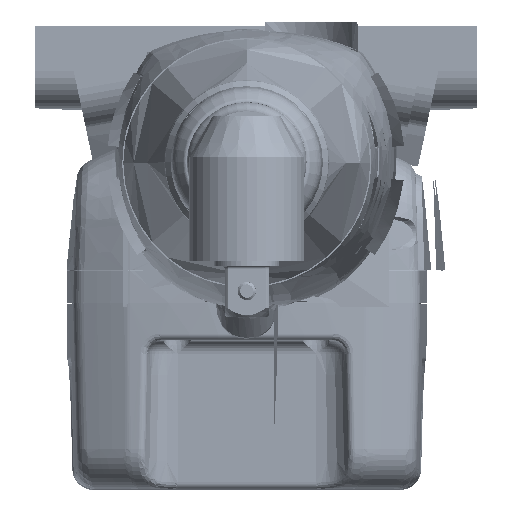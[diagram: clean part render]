
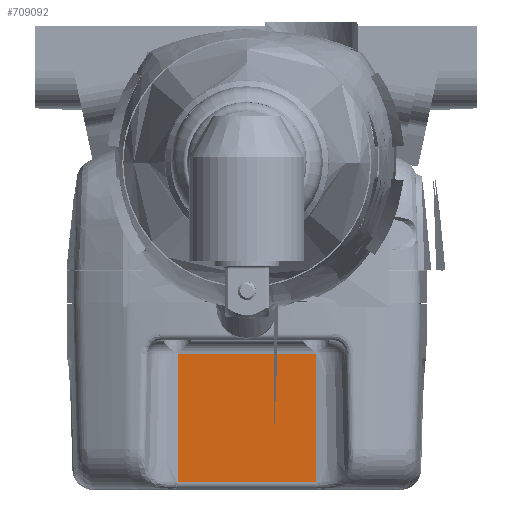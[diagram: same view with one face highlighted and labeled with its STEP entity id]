
A CAD part, top view. The second image highlights one B-rep face of the part: STEP entity #709092.
In plain terms, the highlighted planar face has unit normal (0, -0.026, 1).
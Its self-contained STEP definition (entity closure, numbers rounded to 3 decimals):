
#695447=DIRECTION('',(1.,0.,0.));
#695448=VECTOR('',#695447,0.423);
#695449=CARTESIAN_POINT('',(-15.,-38.789,
51.444));
#695450=LINE('',#695449,#695448);
#695468=DIRECTION('',(0.,-1.,
-0.026));
#695469=VECTOR('',#695468,27.877);
#695470=CARTESIAN_POINT('',(-15.,-10.921,52.173));
#695471=LINE('',#695470,#695469);
#697656=DIRECTION('',(1.,0.,0.));
#697657=VECTOR('',#697656,0.423);
#697658=CARTESIAN_POINT('',(14.577,-38.789,
51.444));
#697659=LINE('',#697658,#697657);
#697687=DIRECTION('',(0.,1.,0.026));
#697688=VECTOR('',#697687,27.877);
#697689=CARTESIAN_POINT('',(15.,-38.789,
51.444));
#697690=LINE('',#697689,#697688);
#697827=DIRECTION('',(-1.,0.,0.));
#697828=VECTOR('',#697827,30.);
#697829=CARTESIAN_POINT('',(15.,-10.921,
52.173));
#697830=LINE('',#697829,#697828);
#697965=DIRECTION('',(1.,0.,0.));
#697966=VECTOR('',#697965,29.155);
#697967=CARTESIAN_POINT('',(-14.577,-38.789,
51.444));
#697968=LINE('',#697967,#697966);
#707075=CARTESIAN_POINT('',(-15.,-38.789,
51.444));
#707076=CARTESIAN_POINT('',(-14.577,-38.789,
51.444));
#707077=VERTEX_POINT('',#707075);
#707078=VERTEX_POINT('',#707076);
#707079=CARTESIAN_POINT('',(-15.,-10.921,52.173));
#707080=VERTEX_POINT('',#707079);
#707081=CARTESIAN_POINT('',(15.,-10.921,
52.173));
#707082=VERTEX_POINT('',#707081);
#707083=CARTESIAN_POINT('',(15.,-38.789,
51.444));
#707084=VERTEX_POINT('',#707083);
#707085=CARTESIAN_POINT('',(14.577,-38.789,
51.444));
#707086=VERTEX_POINT('',#707085);
#709074=CARTESIAN_POINT('',(-399999.654,-8.,52.25));
#709075=DIRECTION('',(0.,0.026,-1.));
#709076=DIRECTION('',(0.,-1.,-0.026));
#709077=AXIS2_PLACEMENT_3D('',#709074,#709075,#709076);
#709078=PLANE('',#709077);
#709080=ORIENTED_EDGE('',*,*,#709079,.F.);
#709082=ORIENTED_EDGE('',*,*,#709081,.F.);
#709084=ORIENTED_EDGE('',*,*,#709083,.F.);
#709086=ORIENTED_EDGE('',*,*,#709085,.F.);
#709088=ORIENTED_EDGE('',*,*,#709087,.F.);
#709089=ORIENTED_EDGE('',*,*,#709064,.F.);
#709090=EDGE_LOOP('',(#709080,#709082,#709084,#709086,#709088,#709089));
#709091=FACE_OUTER_BOUND('',#709090,.F.);
#709092=ADVANCED_FACE('',(#709091),#709078,.F.);
#709064=EDGE_CURVE('',#707077,#707078,#695450,.T.);
#709079=EDGE_CURVE('',#707080,#707077,#695471,.T.);
#709081=EDGE_CURVE('',#707082,#707080,#697830,.T.);
#709083=EDGE_CURVE('',#707084,#707082,#697690,.T.);
#709085=EDGE_CURVE('',#707086,#707084,#697659,.T.);
#709087=EDGE_CURVE('',#707078,#707086,#697968,.T.);
